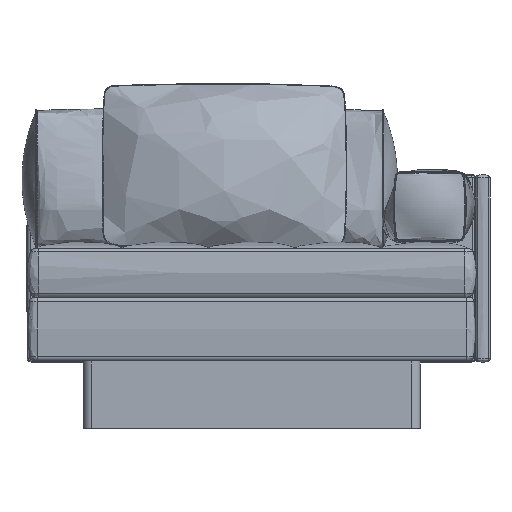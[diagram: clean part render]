
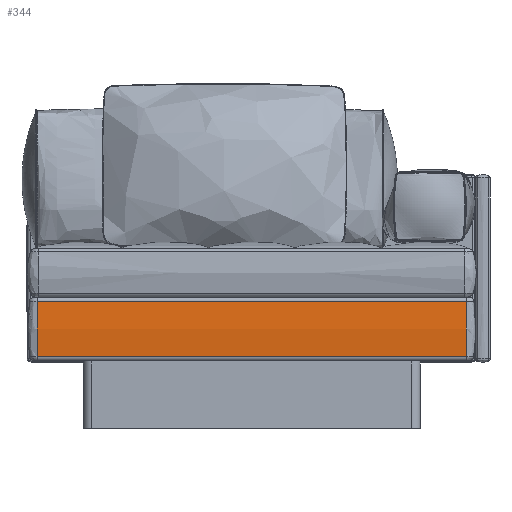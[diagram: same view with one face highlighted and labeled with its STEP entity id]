
A CAD part, front view. The second image highlights one B-rep face of the part: STEP entity #344.
In plain terms, the highlighted free-form (B-spline) face has degree [3, 2] with [4, 3] control points.
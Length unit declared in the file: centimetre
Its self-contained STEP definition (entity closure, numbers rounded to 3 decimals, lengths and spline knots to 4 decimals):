
#344=ADVANCED_FACE('',(#598),#3823,.T.);
#598=FACE_OUTER_BOUND('',#852,.T.);
#852=EDGE_LOOP('',(#1285,#1286,#1287,#1288));
#1285=ORIENTED_EDGE('',*,*,#2204,.F.);
#1286=ORIENTED_EDGE('',*,*,#2215,.T.);
#1287=ORIENTED_EDGE('',*,*,#2205,.T.);
#1288=ORIENTED_EDGE('',*,*,#2232,.F.);
#2204=EDGE_CURVE('',#3391,#3401,#3039,.T.);
#2205=EDGE_CURVE('',#3392,#3402,#3040,.T.);
#2215=EDGE_CURVE('',#3391,#3392,#3047,.T.);
#2232=EDGE_CURVE('',#3401,#3402,#3061,.T.);
#3039=(
BOUNDED_CURVE()
B_SPLINE_CURVE(2,(#8560,#8561,#8562),.UNSPECIFIED.,.F.,.F.)
B_SPLINE_CURVE_WITH_KNOTS((3,3),(-130.6854,-4.0944),
 .UNSPECIFIED.)
CURVE()
GEOMETRIC_REPRESENTATION_ITEM()
RATIONAL_B_SPLINE_CURVE((1.,0.996,1.))
REPRESENTATION_ITEM('')
);
#3040=(
BOUNDED_CURVE()
B_SPLINE_CURVE(2,(#8563,#8564,#8565),.UNSPECIFIED.,.F.,.F.)
B_SPLINE_CURVE_WITH_KNOTS((3,3),(-130.6854,-4.0944),
 .UNSPECIFIED.)
CURVE()
GEOMETRIC_REPRESENTATION_ITEM()
RATIONAL_B_SPLINE_CURVE((1.,0.996,1.))
REPRESENTATION_ITEM('')
);
#3047=(
BOUNDED_CURVE()
B_SPLINE_CURVE(1,(#8651,#8652),.UNSPECIFIED.,.F.,.F.)
B_SPLINE_CURVE_WITH_KNOTS((2,2),(0.,737.),
 .UNSPECIFIED.)
CURVE()
GEOMETRIC_REPRESENTATION_ITEM()
RATIONAL_B_SPLINE_CURVE((1.,1.))
REPRESENTATION_ITEM('')
);
#3061=(
BOUNDED_CURVE()
B_SPLINE_CURVE(1,(#8820,#8821),.UNSPECIFIED.,.F.,.F.)
B_SPLINE_CURVE_WITH_KNOTS((2,2),(0.,737.),.UNSPECIFIED.)
CURVE()
GEOMETRIC_REPRESENTATION_ITEM()
RATIONAL_B_SPLINE_CURVE((1.,1.))
REPRESENTATION_ITEM('')
);
#3391=VERTEX_POINT('',#8129);
#3392=VERTEX_POINT('',#8130);
#3401=VERTEX_POINT('',#8139);
#3402=VERTEX_POINT('',#8140);
#3823=(
BOUNDED_SURFACE()
B_SPLINE_SURFACE(3,2,((#7804,#7805,#7806),(#7807,#7808,#7809),(#7810,#7811,
#7812),(#7813,#7814,#7815)),.UNSPECIFIED.,.F.,.F.,.F.)
B_SPLINE_SURFACE_WITH_KNOTS((4,4),(3,3),(0.,737.),(-140.2332,6.1655),
 .UNSPECIFIED.)
GEOMETRIC_REPRESENTATION_ITEM()
RATIONAL_B_SPLINE_SURFACE(((1.,0.995,1.),(1.,0.995,
1.),(1.,0.995,1.),(1.,0.995,1.)))
REPRESENTATION_ITEM('')
SURFACE()
);
#7804=CARTESIAN_POINT('',(48.5214,-38.3175,29.7));
#7805=CARTESIAN_POINT('',(48.5214,-39.1184,22.39));
#7806=CARTESIAN_POINT('',(48.5214,-38.2473,15.0868));
#7807=CARTESIAN_POINT('',(16.1848,-38.3175,29.7));
#7808=CARTESIAN_POINT('',(16.1848,-39.1184,22.39));
#7809=CARTESIAN_POINT('',(16.1848,-38.2473,15.0868));
#7810=CARTESIAN_POINT('',(-16.1518,-38.3175,29.7));
#7811=CARTESIAN_POINT('',(-16.1518,-39.1184,22.39));
#7812=CARTESIAN_POINT('',(-16.1518,-38.2473,15.0868));
#7813=CARTESIAN_POINT('',(-48.4884,-38.3175,29.7));
#7814=CARTESIAN_POINT('',(-48.4884,-39.1184,22.39));
#7815=CARTESIAN_POINT('',(-48.4884,-38.2473,15.0868));
#8129=CARTESIAN_POINT('',(48.5214,-38.4144,28.7508));
#8130=CARTESIAN_POINT('',(-48.4884,-38.4144,28.7508));
#8139=CARTESIAN_POINT('',(48.5214,-38.3607,16.106));
#8140=CARTESIAN_POINT('',(-48.4884,-38.3607,16.106));
#8560=CARTESIAN_POINT('',(48.5214,-38.4144,28.7508));
#8561=CARTESIAN_POINT('',(48.5214,-39.0126,22.4262));
#8562=CARTESIAN_POINT('',(48.5214,-38.3607,16.106));
#8563=CARTESIAN_POINT('',(-48.4884,-38.4144,28.7508));
#8564=CARTESIAN_POINT('',(-48.4884,-39.0126,22.4262));
#8565=CARTESIAN_POINT('',(-48.4884,-38.3607,16.106));
#8651=CARTESIAN_POINT('',(48.5214,-38.4144,28.7508));
#8652=CARTESIAN_POINT('',(-48.4884,-38.4144,28.7508));
#8820=CARTESIAN_POINT('',(48.5214,-38.3607,16.106));
#8821=CARTESIAN_POINT('',(-48.4884,-38.3607,16.106));
